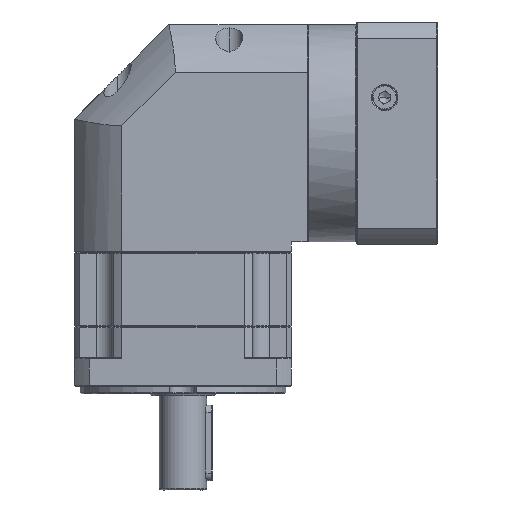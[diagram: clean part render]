
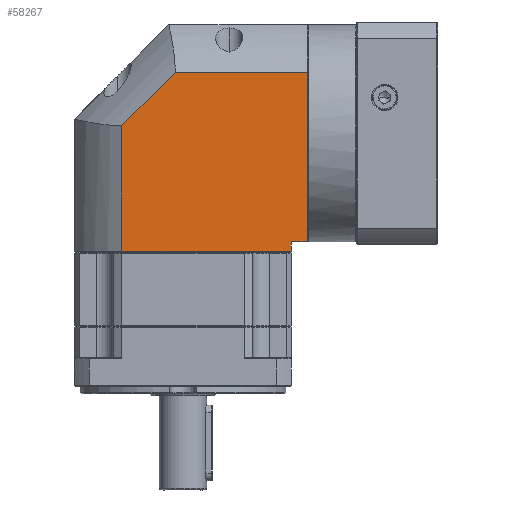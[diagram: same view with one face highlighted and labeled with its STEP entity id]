
A CAD part, front view. The second image highlights one B-rep face of the part: STEP entity #58267.
In plain terms, the highlighted planar face has unit normal (0, -1, 0).
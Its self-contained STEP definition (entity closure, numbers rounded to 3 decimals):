
#9474 = CARTESIAN_POINT ( 'NONE',  ( 106.38, 5.353, -43.936 ) ) ;
#9620 = VECTOR ( 'NONE', #39972, 1000. ) ;
#11367 = VERTEX_POINT ( 'NONE', #57725 ) ;
#12718 = EDGE_CURVE ( 'NONE', #130614, #107830, #32273, .T. ) ;
#15458 = ORIENTED_EDGE ( 'NONE', *, *, #87093, .F. ) ;
#15916 = CARTESIAN_POINT ( 'NONE',  ( 8.08, 5.353, 17.625 ) ) ;
#19799 = CARTESIAN_POINT ( 'NONE',  ( 106.38, 5.353, -55.436 ) ) ;
#22168 = CARTESIAN_POINT ( 'NONE',  ( 36.419, 5.353, 45.963 ) ) ;
#22872 = VECTOR ( 'NONE', #114955, 1000. ) ;
#24368 = VERTEX_POINT ( 'NONE', #112427 ) ;
#24760 = DIRECTION ( 'NONE',  ( 0.707, 0., 0.707 ) ) ;
#26579 = EDGE_CURVE ( 'NONE', #50708, #11367, #121975, .T. ) ;
#27322 = CARTESIAN_POINT ( 'NONE',  ( -17.02, 5.353, 45.963 ) ) ;
#28955 = PLANE ( 'NONE',  #62983 ) ;
#32273 = LINE ( 'NONE', #27322, #70506 ) ;
#32855 = EDGE_CURVE ( 'NONE', #134737, #50708, #37197, .T. ) ;
#37197 = LINE ( 'NONE', #86128, #126883 ) ;
#37342 = CARTESIAN_POINT ( 'NONE',  ( 106.38, 5.353, 45.963 ) ) ;
#38915 = CARTESIAN_POINT ( 'NONE',  ( 97.98, 5.353, -43.936 ) ) ;
#39185 = CARTESIAN_POINT ( 'NONE',  ( -17.02, 5.353, -55.436 ) ) ;
#39972 = DIRECTION ( 'NONE',  ( -1., 0., 0. ) ) ;
#42998 = CARTESIAN_POINT ( 'NONE',  ( 8.08, 5.353, 17.625 ) ) ;
#43188 = ORIENTED_EDGE ( 'NONE', *, *, #12718, .F. ) ;
#43697 = ORIENTED_EDGE ( 'NONE', *, *, #26579, .F. ) ;
#47843 = VECTOR ( 'NONE', #94104, 1000. ) ;
#50708 = VERTEX_POINT ( 'NONE', #38915 ) ;
#51152 = CARTESIAN_POINT ( 'NONE',  ( 97.98, 5.353, -55.436 ) ) ;
#52281 = CARTESIAN_POINT ( 'NONE',  ( 8.08, 5.353, -55.436 ) ) ;
#57725 = CARTESIAN_POINT ( 'NONE',  ( 97.98, 5.353, -48.936 ) ) ;
#58267 = ADVANCED_FACE ( 'NONE', ( #97668 ), #28955, .F. ) ;
#60501 = VECTOR ( 'NONE', #104986, 1000. ) ;
#62585 = ORIENTED_EDGE ( 'NONE', *, *, #105760, .F. ) ;
#62983 = AXIS2_PLACEMENT_3D ( 'NONE', #39185, #91143, #133872 ) ;
#67899 = EDGE_CURVE ( 'NONE', #11367, #24368, #112637, .T. ) ;
#70506 = VECTOR ( 'NONE', #80700, 1000. ) ;
#77744 = EDGE_CURVE ( 'NONE', #106636, #130614, #123203, .T. ) ;
#80700 = DIRECTION ( 'NONE',  ( 1., 0., 0. ) ) ;
#86128 = CARTESIAN_POINT ( 'NONE',  ( -17.02, 5.353, -43.936 ) ) ;
#87093 = EDGE_CURVE ( 'NONE', #24368, #106636, #137756, .T. ) ;
#91143 = DIRECTION ( 'NONE',  ( 0., 1., 0. ) ) ;
#94104 = DIRECTION ( 'NONE',  ( 0., 0., -1. ) ) ;
#96820 = DIRECTION ( 'NONE',  ( -1., 0., 0. ) ) ;
#97668 = FACE_OUTER_BOUND ( 'NONE', #105329, .T. ) ;
#99223 = LINE ( 'NONE', #19799, #47843 ) ;
#104986 = DIRECTION ( 'NONE',  ( 0., 0., -1. ) ) ;
#105329 = EDGE_LOOP ( 'NONE', ( #43697, #115537, #62585, #43188, #135511, #15458, #131138 ) ) ;
#105760 = EDGE_CURVE ( 'NONE', #107830, #134737, #99223, .T. ) ;
#106636 = VERTEX_POINT ( 'NONE', #42998 ) ;
#107830 = VERTEX_POINT ( 'NONE', #37342 ) ;
#112427 = CARTESIAN_POINT ( 'NONE',  ( 8.08, 5.353, -48.936 ) ) ;
#112637 = LINE ( 'NONE', #134683, #9620 ) ;
#114955 = DIRECTION ( 'NONE',  ( 0., 0., 1. ) ) ;
#115537 = ORIENTED_EDGE ( 'NONE', *, *, #32855, .F. ) ;
#121478 = VECTOR ( 'NONE', #24760, 1000. ) ;
#121975 = LINE ( 'NONE', #51152, #60501 ) ;
#123203 = LINE ( 'NONE', #15916, #121478 ) ;
#126883 = VECTOR ( 'NONE', #96820, 1000. ) ;
#130614 = VERTEX_POINT ( 'NONE', #22168 ) ;
#131138 = ORIENTED_EDGE ( 'NONE', *, *, #67899, .F. ) ;
#133872 = DIRECTION ( 'NONE',  ( 1., 0., 0. ) ) ;
#134683 = CARTESIAN_POINT ( 'NONE',  ( -17.02, 5.353, -48.936 ) ) ;
#134737 = VERTEX_POINT ( 'NONE', #9474 ) ;
#135511 = ORIENTED_EDGE ( 'NONE', *, *, #77744, .F. ) ;
#137756 = LINE ( 'NONE', #52281, #22872 ) ;
